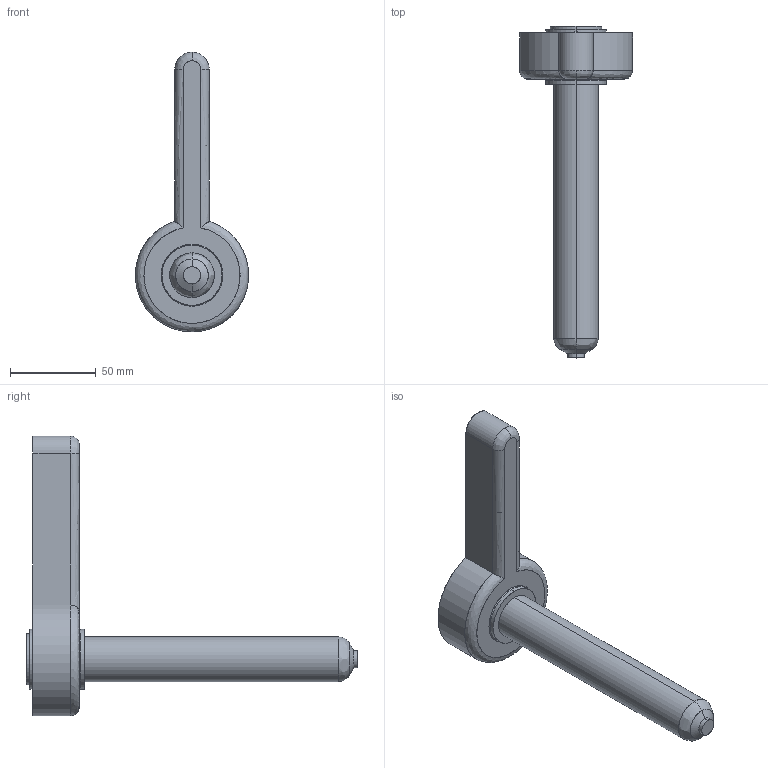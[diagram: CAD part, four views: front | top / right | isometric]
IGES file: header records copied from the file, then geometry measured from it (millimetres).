
Start section: SolidWorks IGES file using analytic representation for surfaces
Global section: file name: C:\Users\luca.EMPAD\Desktop\TEM\Sede UGBE3504-S-A C-159 L-191 P-0.IGS; native system: SolidWorks 2012; preprocessor: SolidWorks 2012; author: luca; date: 120330.142801; units: millimetre
Bounding box: 65.99 x 193.4 x 163 mm (x, y, z)
Surface area: 33669 mm2 (no closed solid volume)
Topology: 0 solids, 0 shells, 34 faces, 754 edges, 754 vertices
Faces by surface type: revolution 21, bspline 13
